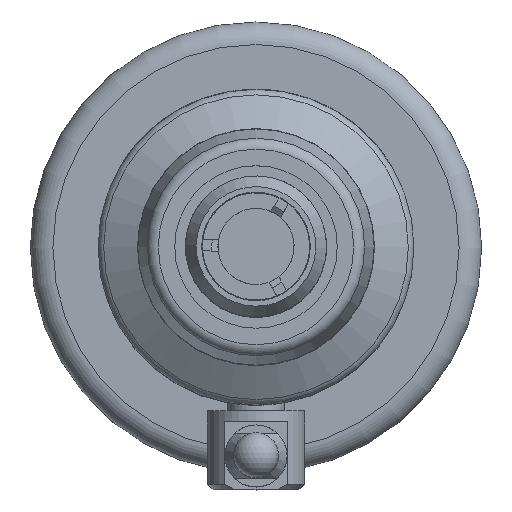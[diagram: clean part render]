
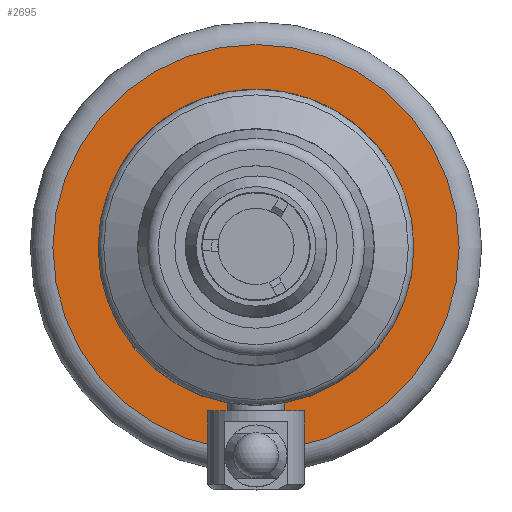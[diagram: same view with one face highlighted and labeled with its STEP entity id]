
A CAD part, top view. The second image highlights one B-rep face of the part: STEP entity #2695.
In plain terms, the highlighted planar face has unit normal (0, 0, 1).
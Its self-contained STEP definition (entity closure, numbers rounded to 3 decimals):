
#2167=FACE_BOUND('',#3253,.T.);
#2168=FACE_BOUND('',#3254,.T.);
#2354=CIRCLE('',#6632,18.);
#2355=CIRCLE('',#6634,7.);
#2554=PLANE('',#6635);
#2695=ADVANCED_FACE('',(#2167,#2168),#2554,.T.);
#3253=EDGE_LOOP('',(#3832));
#3254=EDGE_LOOP('',(#3833));
#3832=ORIENTED_EDGE('',*,*,#5473,.T.);
#3833=ORIENTED_EDGE('',*,*,#5474,.F.);
#5021=VERTEX_POINT('',#8629);
#5022=VERTEX_POINT('',#8632);
#5473=EDGE_CURVE('',#5021,#5021,#2354,.T.);
#5474=EDGE_CURVE('',#5022,#5022,#2355,.T.);
#6632=AXIS2_PLACEMENT_3D('',#8628,#7179,#7180);
#6634=AXIS2_PLACEMENT_3D('',#8631,#7183,#7184);
#6635=AXIS2_PLACEMENT_3D('',#8633,#7185,#7186);
#7179=DIRECTION('',(0.,0.,1.));
#7180=DIRECTION('',(1.,0.,0.));
#7183=DIRECTION('',(0.,0.,1.));
#7184=DIRECTION('',(1.,0.,0.));
#7185=DIRECTION('',(0.,0.,1.));
#7186=DIRECTION('',(1.,0.,0.));
#8628=CARTESIAN_POINT('',(0.,0.,0.));
#8629=CARTESIAN_POINT('',(18.,0.,0.));
#8631=CARTESIAN_POINT('',(0.,0.,0.));
#8632=CARTESIAN_POINT('',(7.,0.,0.));
#8633=CARTESIAN_POINT('',(0.,0.,0.));
